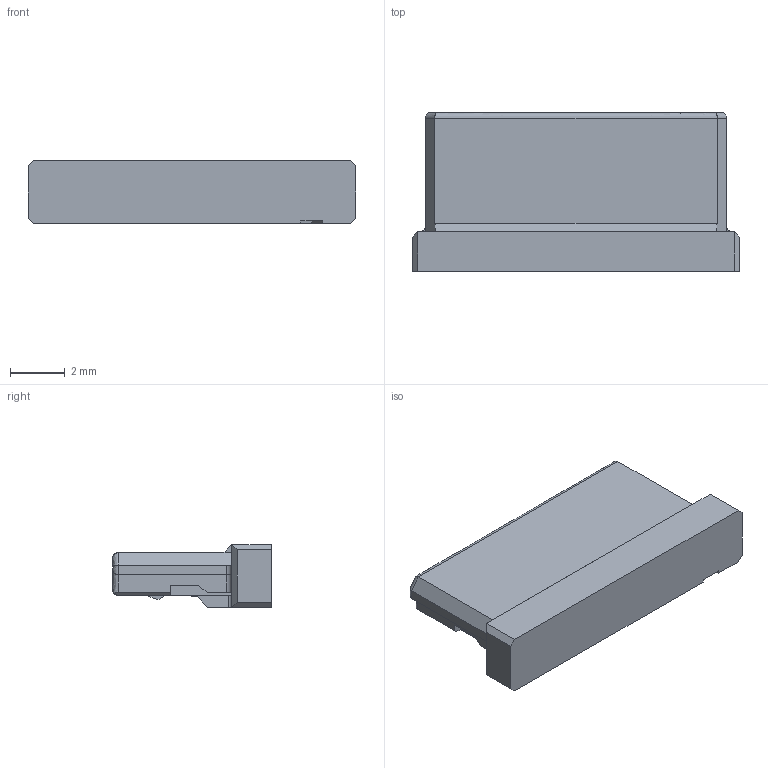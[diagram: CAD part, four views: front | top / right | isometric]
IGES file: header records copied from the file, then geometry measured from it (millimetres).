
Start section: Elysium IGES Interface
Global section: file name: T:\3D_USER\3D_(‹¤’Ê)NCW‹Z\3D _WEBŒöŠJ—p_“o˜^‘Ò‚¿\DF14\DF14-#S-1.25C\DF14-8S-1.25C.igs; native system: CoCreate Modeling 16.00B  02-Dec-2008; preprocessor: CoCreate IGES_3D V2.2; author: Unknown; organization: Unknown; date: 20100508.075417; units: millimetre
Bounding box: 11.95 x 5.8 x 2.3 mm (x, y, z)
Volume: 114.3 mm3; surface area: 204.9 mm2
Topology: 1 solids, 1 shells, 131 faces, 363 edges, 236 vertices
Faces by surface type: bspline 131
